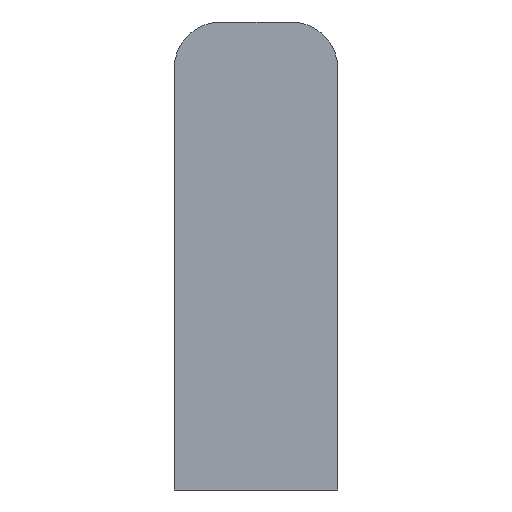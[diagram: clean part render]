
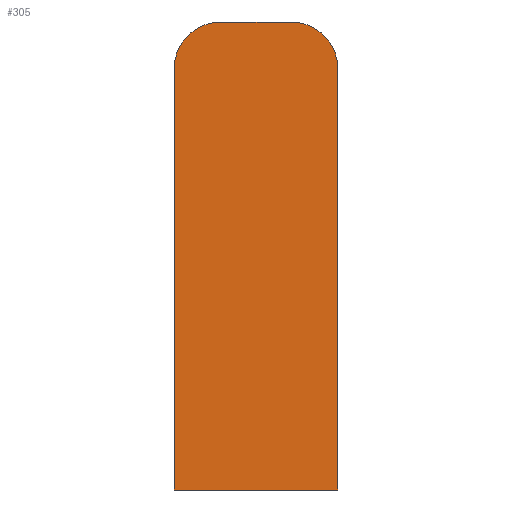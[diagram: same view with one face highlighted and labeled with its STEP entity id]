
A CAD part, front view. The second image highlights one B-rep face of the part: STEP entity #305.
In plain terms, the highlighted planar face has unit normal (0, -1, 0).
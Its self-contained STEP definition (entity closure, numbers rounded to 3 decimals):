
#10 = ORIENTED_EDGE ( 'NONE', *, *, #411, .T. ) ;
#13 = ORIENTED_EDGE ( 'NONE', *, *, #397, .T. ) ;
#28 = FACE_OUTER_BOUND ( 'NONE', #32, .T. ) ;
#32 = EDGE_LOOP ( 'NONE', ( #343, #336, #335, #331, #10, #13 ) ) ;
#72 = VECTOR ( 'NONE', #197, 1000. ) ;
#73 = LINE ( 'NONE', #196, #72 ) ;
#77 = LINE ( 'NONE', #206, #83 ) ;
#83 = VECTOR ( 'NONE', #210, 1000. ) ;
#85 = LINE ( 'NONE', #211, #86 ) ;
#86 = VECTOR ( 'NONE', #212, 1000. ) ;
#111 = CIRCLE ( 'NONE', #412, 3. ) ;
#118 = LINE ( 'NONE', #272, #119 ) ;
#119 = VECTOR ( 'NONE', #273, 1000. ) ;
#123 = CIRCLE ( 'NONE', #418, 3. ) ;
#168 = CARTESIAN_POINT ( 'NONE',  ( -5.25, 0., 10.5 ) ) ;
#177 = CARTESIAN_POINT ( 'NONE',  ( 2.25, 0., 13.5 ) ) ;
#184 = CARTESIAN_POINT ( 'NONE',  ( 5.25, 0., 10.5 ) ) ;
#185 = CARTESIAN_POINT ( 'NONE',  ( -5.25, 0., -16.5 ) ) ;
#188 = CARTESIAN_POINT ( 'NONE',  ( 5.25, 0., -16.5 ) ) ;
#190 = CARTESIAN_POINT ( 'NONE',  ( -2.25, 0., 13.5 ) ) ;
#196 = CARTESIAN_POINT ( 'NONE',  ( 5.25, 0., -16.5 ) ) ;
#197 = DIRECTION ( 'NONE',  ( 1., 0., 0. ) ) ;
#206 = CARTESIAN_POINT ( 'NONE',  ( -5.25, 0., -16.5 ) ) ;
#210 = DIRECTION ( 'NONE',  ( 0., 0., -1. ) ) ;
#211 = CARTESIAN_POINT ( 'NONE',  ( 5.25, 0., -16.5 ) ) ;
#212 = DIRECTION ( 'NONE',  ( 0., 0., 1. ) ) ;
#219 = DIRECTION ( 'NONE',  ( -1., 0., 0. ) ) ;
#236 = DIRECTION ( 'NONE',  ( 0., 1., 0. ) ) ;
#251 = CARTESIAN_POINT ( 'NONE',  ( 2.25, 0., 10.5 ) ) ;
#262 = DIRECTION ( 'NONE',  ( 0., -1., 0. ) ) ;
#263 = DIRECTION ( 'NONE',  ( -1., 0., 0. ) ) ;
#272 = CARTESIAN_POINT ( 'NONE',  ( 2.25, 0., 13.5 ) ) ;
#273 = DIRECTION ( 'NONE',  ( -1., 0., 0. ) ) ;
#279 = CARTESIAN_POINT ( 'NONE',  ( -2.25, 0., 10.5 ) ) ;
#280 = DIRECTION ( 'NONE',  ( 0., -1., 0. ) ) ;
#281 = DIRECTION ( 'NONE',  ( -1., 0., 0. ) ) ;
#305 = ADVANCED_FACE ( 'NONE', ( #28 ), #381, .F. ) ;
#331 = ORIENTED_EDGE ( 'NONE', *, *, #463, .T. ) ;
#335 = ORIENTED_EDGE ( 'NONE', *, *, #458, .T. ) ;
#336 = ORIENTED_EDGE ( 'NONE', *, *, #449, .T. ) ;
#343 = ORIENTED_EDGE ( 'NONE', *, *, #415, .T. ) ;
#368 = VERTEX_POINT ( 'NONE', #168 ) ;
#372 = VERTEX_POINT ( 'NONE', #177 ) ;
#378 = VERTEX_POINT ( 'NONE', #184 ) ;
#379 = VERTEX_POINT ( 'NONE', #185 ) ;
#381 = PLANE ( 'NONE',  #432 ) ;
#383 = VERTEX_POINT ( 'NONE', #188 ) ;
#385 = VERTEX_POINT ( 'NONE', #190 ) ;
#392 = CARTESIAN_POINT ( 'NONE',  ( 0., 0., -1.5 ) ) ;
#397 = EDGE_CURVE ( 'NONE', #379, #383, #73, .T. ) ;
#411 = EDGE_CURVE ( 'NONE', #368, #379, #77, .T. ) ;
#412 = AXIS2_PLACEMENT_3D ( 'NONE', #251, #262, #263 ) ;
#415 = EDGE_CURVE ( 'NONE', #383, #378, #85, .T. ) ;
#418 = AXIS2_PLACEMENT_3D ( 'NONE', #279, #280, #281 ) ;
#432 = AXIS2_PLACEMENT_3D ( 'NONE', #392, #236, #219 ) ;
#449 = EDGE_CURVE ( 'NONE', #378, #372, #111, .T. ) ;
#458 = EDGE_CURVE ( 'NONE', #372, #385, #118, .T. ) ;
#463 = EDGE_CURVE ( 'NONE', #385, #368, #123, .T. ) ;
